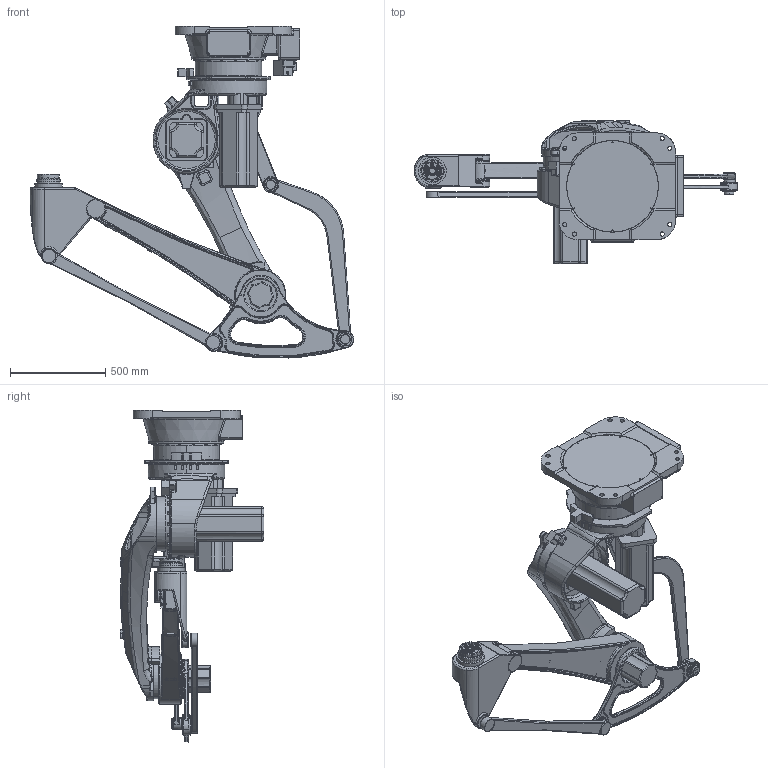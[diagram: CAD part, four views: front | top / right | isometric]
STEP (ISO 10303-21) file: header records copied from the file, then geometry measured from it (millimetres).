
FILE_DESCRIPTION (( 'STEP AP214' ), '1' );
FILE_NAME ('lb2100-F-4.STP', '2025-08-26T01:44:24', ( '' ), ( '' ), 'SwSTEP 2.0', 'SolidWorks 2022', '' );
FILE_SCHEMA (( 'AUTOMOTIVE_DESIGN' ));
Length unit declared in the file: millimetre
Products named in the file (9): 0150.stp; PRT0002.stp; PRT0021.stp; PRT0020.stp; PRT0005.stp; PRT0004.stp; PRT0010.stp; lb2100-F-4; PRT0001.stp
Assembly tree (8 placements, depth 2):
  lb2100-F-4
    PRT0010.stp
    PRT0001.stp
    PRT0005.stp
    PRT0004.stp
    0150.stp
    PRT0002.stp
    PRT0021.stp
    PRT0020.stp
Bounding box: 1694.31 x 753.9 x 1738.43 mm (x, y, z)
Surface area: 7480864.3 mm2 (no closed solid volume)
Topology: 0 solids, 144 shells, 3313 faces, 9596 edges, 6238 vertices
Faces by surface type: cylinder 1662, plane 541, torus 449, bspline 436, cone 174, sphere 51
Entity records: 212946 total; most frequent: CARTESIAN_POINT 145780, ORIENTED_EDGE 17486, EDGE_CURVE 9497, B_SPLINE_CURVE_WITH_KNOTS 8866, VERTEX_POINT 6238, DIRECTION 6205, EDGE_LOOP 3483, ADVANCED_FACE 3313
